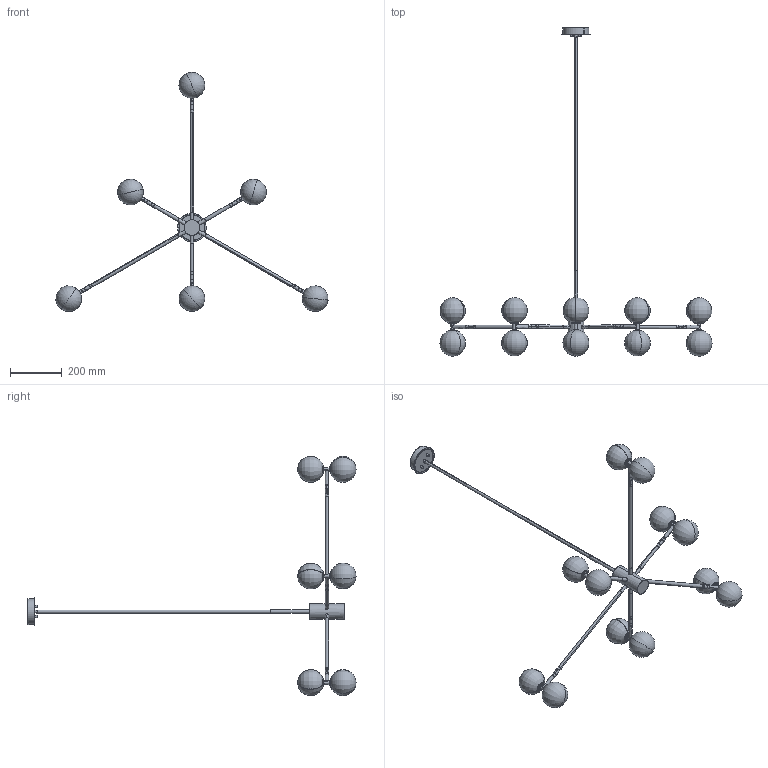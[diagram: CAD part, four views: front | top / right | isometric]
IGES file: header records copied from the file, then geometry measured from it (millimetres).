
Start section: SolidWorks IGES file using analytic representation for surfaces
Global section: file name: C:\Users\Agus\Desktop\AROMAS\PROPUESTAS ENERO 2020\C1280-6\C1280-6.IGS; native system: SolidWorks 2018; preprocessor: SolidWorks 2018; author: Agus; date: 200406.102259; units: millimetre
Bounding box: 1049.99 x 1266 x 923.32 mm (x, y, z)
Surface area: 797350.4 mm2 (no closed solid volume)
Topology: 0 solids, 0 shells, 392 faces, 7110 edges, 7084 vertices
Faces by surface type: revolution 264, bspline 128
